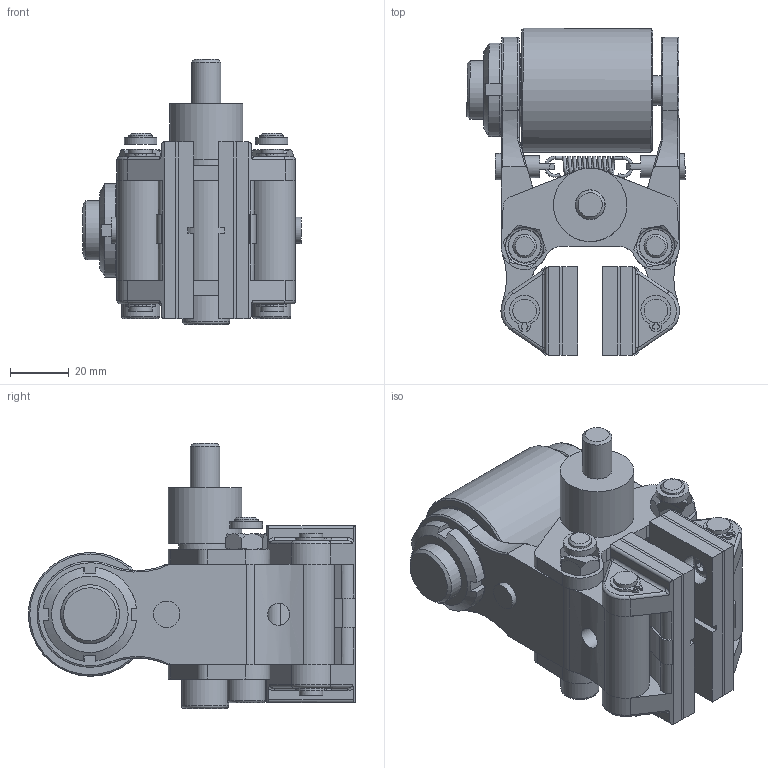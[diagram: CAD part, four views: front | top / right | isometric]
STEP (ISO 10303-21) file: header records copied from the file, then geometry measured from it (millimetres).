
FILE_DESCRIPTION(/* description */ ('','CAx-IF Rec.Pracs.---Representation and Presentation of Product Manufacturing Information (PMI)---4.0---2014-10-13'),/* implementation_level */ '2;1');
FILE_NAME(/* name */ 'X:\INVENTOR\DISEGNI\19_Pinze\STEP x Sito\PNEUM-NEGATIVE\19_36_A03_02 PPA-NA03_08.stp',/* time_stamp */ '2018-02-21T14:47:55+01:00',/* author */ ('stefano'),/* organization */ (''),/* preprocessor_version */ 'ST-DEVELOPER v17',/* originating_system */ 'Autodesk Inventor 2018',/* authorisation */ '');
FILE_SCHEMA (('AP242_MANAGED_MODEL_BASED_3D_ENGINEERING_MIM_LF { 1 0 10303 442 1 1 4 }'));
Length unit declared in the file: millimetre
Products named in the file (1): 19_36_A03_02 PPA-NA03_08_Substitute_2
Bounding box: 74.05 x 111.16 x 90 mm (x, y, z)
Volume: 201525.5 mm3; surface area: 64993.7 mm2
Topology: 1 solids, 1 shells, 539 faces, 1469 edges, 962 vertices
Faces by surface type: plane 271, cylinder 170, torus 43, cone 32, bspline 21, sphere 2
Full cylindrical faces by diameter (mm): 1.1 x2, 2.5 x3, 6 x1, 7.4 x2, 7.5 x4, 7.6 x4, 8 x10, 8.566 x1, 9 x2, 9.5 x4, 10 x3, 10.1 x1, 10.5 x4, 11.05 x2, 13 x2, 16 x1, 18 x2, 20 x2, 25 x2, 27 x1, 29 x1, 35 x1, 36 x1, 42 x1
Entity records: 20077 total; most frequent: CARTESIAN_POINT 5694, DIRECTION 2957, ORIENTED_EDGE 2922, EDGE_CURVE 1461, AXIS2_PLACEMENT_3D 1149, VERTEX_POINT 962, LINE 659, VECTOR 659
